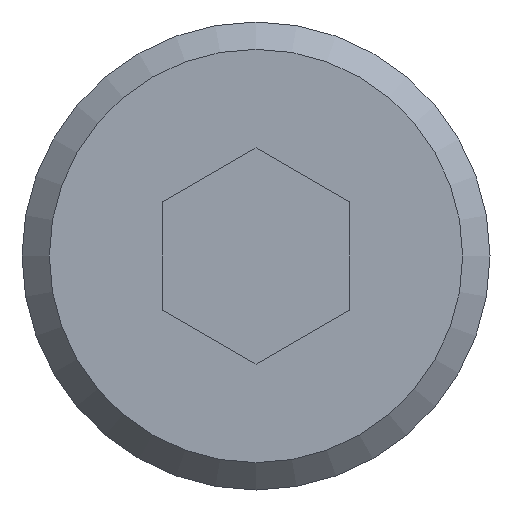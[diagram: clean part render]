
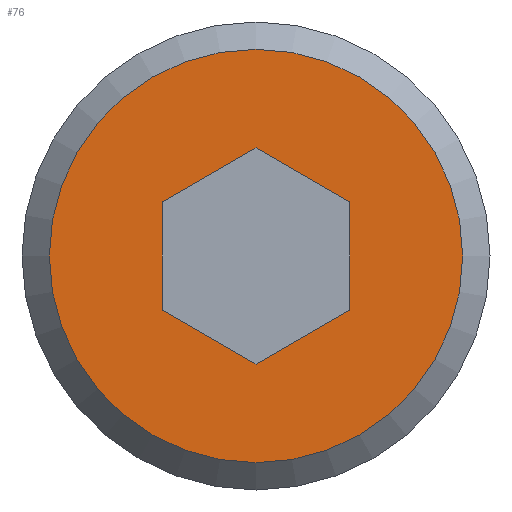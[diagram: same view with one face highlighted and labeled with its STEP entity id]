
A CAD part, front view. The second image highlights one B-rep face of the part: STEP entity #76.
In plain terms, the highlighted planar face has unit normal (0, -1, 0).
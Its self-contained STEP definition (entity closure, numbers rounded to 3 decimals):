
#76 = ADVANCED_FACE( '', ( #94, #95 ), #96, .F. );
#94 = FACE_OUTER_BOUND( '', #132, .T. );
#95 = FACE_BOUND( '', #133, .T. );
#96 = PLANE( '', #134 );
#132 = EDGE_LOOP( '', ( #172 ) );
#133 = EDGE_LOOP( '', ( #173, #174, #175, #176, #177, #178 ) );
#134 = AXIS2_PLACEMENT_3D( '', #179, #180, #181 );
#172 = ORIENTED_EDGE( '', *, *, #264, .F. );
#173 = ORIENTED_EDGE( '', *, *, #265, .T. );
#174 = ORIENTED_EDGE( '', *, *, #266, .T. );
#175 = ORIENTED_EDGE( '', *, *, #267, .T. );
#176 = ORIENTED_EDGE( '', *, *, #268, .T. );
#177 = ORIENTED_EDGE( '', *, *, #269, .T. );
#178 = ORIENTED_EDGE( '', *, *, #270, .T. );
#179 = CARTESIAN_POINT( '', ( 0., 0., 0. ) );
#180 = DIRECTION( '', ( 0., 1., 0. ) );
#181 = DIRECTION( '', ( 0., 0., 1. ) );
#264 = EDGE_CURVE( '', #291, #291, #292, .T. );
#265 = EDGE_CURVE( '', #293, #294, #295, .T. );
#266 = EDGE_CURVE( '', #294, #296, #297, .T. );
#267 = EDGE_CURVE( '', #296, #298, #299, .T. );
#268 = EDGE_CURVE( '', #298, #300, #301, .T. );
#269 = EDGE_CURVE( '', #300, #302, #303, .T. );
#270 = EDGE_CURVE( '', #302, #293, #304, .T. );
#291 = VERTEX_POINT( '', #335 );
#292 = CIRCLE( '', #336, 13.25 );
#293 = VERTEX_POINT( '', #337 );
#294 = VERTEX_POINT( '', #338 );
#295 = LINE( '', #339, #340 );
#296 = VERTEX_POINT( '', #341 );
#297 = LINE( '', #342, #343 );
#298 = VERTEX_POINT( '', #344 );
#299 = LINE( '', #345, #346 );
#300 = VERTEX_POINT( '', #347 );
#301 = LINE( '', #348, #349 );
#302 = VERTEX_POINT( '', #350 );
#303 = LINE( '', #351, #352 );
#304 = LINE( '', #353, #354 );
#335 = CARTESIAN_POINT( '', ( 0., 0., 13.25 ) );
#336 = AXIS2_PLACEMENT_3D( '', #398, #399, #400 );
#337 = CARTESIAN_POINT( '', ( -6., 0., -3.464 ) );
#338 = CARTESIAN_POINT( '', ( -6., 0., 3.464 ) );
#339 = CARTESIAN_POINT( '', ( -6., 0., -3.464 ) );
#340 = VECTOR( '', #401, 1000. );
#341 = CARTESIAN_POINT( '', ( 0., 0., 6.928 ) );
#342 = CARTESIAN_POINT( '', ( -6., 0., 3.464 ) );
#343 = VECTOR( '', #402, 1000. );
#344 = CARTESIAN_POINT( '', ( 6., 0., 3.464 ) );
#345 = CARTESIAN_POINT( '', ( 0., 0., 6.928 ) );
#346 = VECTOR( '', #403, 1000. );
#347 = CARTESIAN_POINT( '', ( 6., 0., -3.464 ) );
#348 = CARTESIAN_POINT( '', ( 6., 0., 3.464 ) );
#349 = VECTOR( '', #404, 1000. );
#350 = CARTESIAN_POINT( '', ( 0., 0., -6.928 ) );
#351 = CARTESIAN_POINT( '', ( 6., 0., -3.464 ) );
#352 = VECTOR( '', #405, 1000. );
#353 = CARTESIAN_POINT( '', ( 0., 0., -6.928 ) );
#354 = VECTOR( '', #406, 1000. );
#398 = CARTESIAN_POINT( '', ( 0., 0., 0. ) );
#399 = DIRECTION( '', ( 0., 1., 0. ) );
#400 = DIRECTION( '', ( 0., 0., 1. ) );
#401 = DIRECTION( '', ( 0., 0., 1. ) );
#402 = DIRECTION( '', ( 0.866, 0., 0.5 ) );
#403 = DIRECTION( '', ( 0.866, 0., -0.5 ) );
#404 = DIRECTION( '', ( 0., 0., -1. ) );
#405 = DIRECTION( '', ( -0.866, 0., -0.5 ) );
#406 = DIRECTION( '', ( -0.866, 0., 0.5 ) );
